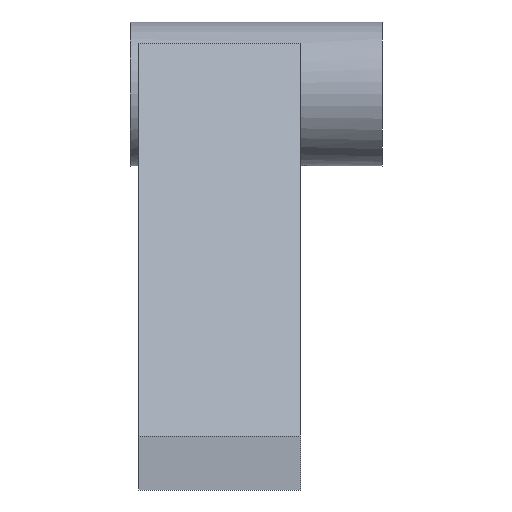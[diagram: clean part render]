
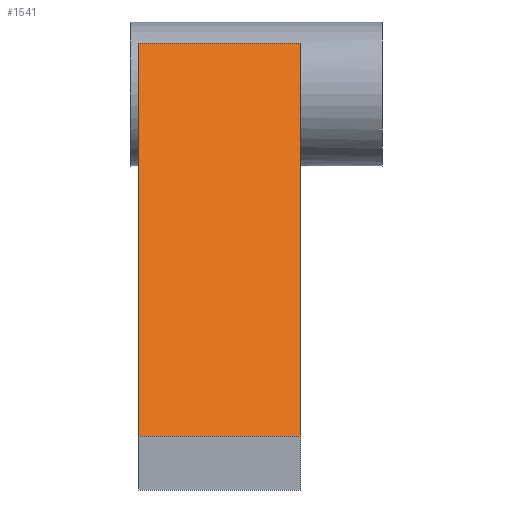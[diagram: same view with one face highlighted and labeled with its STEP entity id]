
A CAD part, front view. The second image highlights one B-rep face of the part: STEP entity #1541.
In plain terms, the highlighted planar face has unit normal (0, -0.67, 0.742).
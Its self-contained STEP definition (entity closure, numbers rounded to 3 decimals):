
#31 = CYLINDRICAL_SURFACE('',#32,8.);
#32 = AXIS2_PLACEMENT_3D('',#33,#34,#35);
#33 = CARTESIAN_POINT('',(-10.,0.,0.));
#34 = DIRECTION('',(-1.,-0.,-0.));
#35 = DIRECTION('',(0.,-1.,0.));
#95 = PLANE('',#96);
#96 = AXIS2_PLACEMENT_3D('',#97,#98,#99);
#97 = CARTESIAN_POINT('',(-9.,-22.394,-20.179));
#98 = DIRECTION('',(1.,0.,0.));
#99 = DIRECTION('',(-0.,0.,1.));
#154 = PLANE('',#155);
#155 = AXIS2_PLACEMENT_3D('',#156,#157,#158);
#156 = CARTESIAN_POINT('',(9.,-22.394,-20.179));
#157 = DIRECTION('',(1.,0.,0.));
#158 = DIRECTION('',(-0.,0.,1.));
#222 = VERTEX_POINT('',#223);
#223 = CARTESIAN_POINT('',(9.,-5.657,5.657));
#249 = EDGE_CURVE('',#250,#222,#252,.T.);
#250 = VERTEX_POINT('',#251);
#251 = CARTESIAN_POINT('',(-9.,-5.657,5.657));
#252 = SURFACE_CURVE('',#253,(#257,#264),.PCURVE_S1.);
#253 = LINE('',#254,#255);
#254 = CARTESIAN_POINT('',(-9.,-5.657,5.657));
#255 = VECTOR('',#256,1.);
#256 = DIRECTION('',(1.,0.,0.));
#257 = PCURVE('',#31,#258);
#258 = DEFINITIONAL_REPRESENTATION('',(#259),#263);
#259 = LINE('',#260,#261);
#260 = CARTESIAN_POINT('',(-5.498,-1.));
#261 = VECTOR('',#262,1.);
#262 = DIRECTION('',(-0.,-1.));
#263 = ( GEOMETRIC_REPRESENTATION_CONTEXT(2) 
PARAMETRIC_REPRESENTATION_CONTEXT() REPRESENTATION_CONTEXT('2D SPACE',''
  ) );
#264 = PCURVE('',#265,#270);
#265 = PLANE('',#266);
#266 = AXIS2_PLACEMENT_3D('',#267,#268,#269);
#267 = CARTESIAN_POINT('',(-9.,-5.657,5.657));
#268 = DIRECTION('',(0.,0.67,-0.742));
#269 = DIRECTION('',(0.,-0.742,-0.67));
#270 = DEFINITIONAL_REPRESENTATION('',(#271),#275);
#271 = LINE('',#272,#273);
#272 = CARTESIAN_POINT('',(0.,0.));
#273 = VECTOR('',#274,1.);
#274 = DIRECTION('',(0.,-1.));
#275 = ( GEOMETRIC_REPRESENTATION_CONTEXT(2) 
PARAMETRIC_REPRESENTATION_CONTEXT() REPRESENTATION_CONTEXT('2D SPACE',''
  ) );
#347 = VERTEX_POINT('',#348);
#348 = CARTESIAN_POINT('',(-9.,-54.,-38.));
#364 = PLANE('',#365);
#365 = AXIS2_PLACEMENT_3D('',#366,#367,#368);
#366 = CARTESIAN_POINT('',(-9.,-54.,-38.));
#367 = DIRECTION('',(-0.,1.,0.));
#368 = DIRECTION('',(0.,0.,-1.));
#427 = EDGE_CURVE('',#250,#347,#428,.T.);
#428 = SURFACE_CURVE('',#429,(#433,#440),.PCURVE_S1.);
#429 = LINE('',#430,#431);
#430 = CARTESIAN_POINT('',(-9.,-5.657,5.657));
#431 = VECTOR('',#432,1.);
#432 = DIRECTION('',(0.,-0.742,-0.67));
#433 = PCURVE('',#95,#434);
#434 = DEFINITIONAL_REPRESENTATION('',(#435),#439);
#435 = LINE('',#436,#437);
#436 = CARTESIAN_POINT('',(25.835,-16.737));
#437 = VECTOR('',#438,1.);
#438 = DIRECTION('',(-0.67,0.742));
#439 = ( GEOMETRIC_REPRESENTATION_CONTEXT(2) 
PARAMETRIC_REPRESENTATION_CONTEXT() REPRESENTATION_CONTEXT('2D SPACE',''
  ) );
#440 = PCURVE('',#265,#441);
#441 = DEFINITIONAL_REPRESENTATION('',(#442),#446);
#442 = LINE('',#443,#444);
#443 = CARTESIAN_POINT('',(0.,0.));
#444 = VECTOR('',#445,1.);
#445 = DIRECTION('',(1.,0.));
#446 = ( GEOMETRIC_REPRESENTATION_CONTEXT(2) 
PARAMETRIC_REPRESENTATION_CONTEXT() REPRESENTATION_CONTEXT('2D SPACE',''
  ) );
#1541 = ADVANCED_FACE('',(#1542),#265,.F.);
#1542 = FACE_BOUND('',#1543,.F.);
#1543 = EDGE_LOOP('',(#1544,#1545,#1568,#1589));
#1544 = ORIENTED_EDGE('',*,*,#249,.T.);
#1545 = ORIENTED_EDGE('',*,*,#1546,.T.);
#1546 = EDGE_CURVE('',#222,#1547,#1549,.T.);
#1547 = VERTEX_POINT('',#1548);
#1548 = CARTESIAN_POINT('',(9.,-54.,-38.));
#1549 = SURFACE_CURVE('',#1550,(#1554,#1561),.PCURVE_S1.);
#1550 = LINE('',#1551,#1552);
#1551 = CARTESIAN_POINT('',(9.,-5.657,5.657));
#1552 = VECTOR('',#1553,1.);
#1553 = DIRECTION('',(0.,-0.742,-0.67));
#1554 = PCURVE('',#265,#1555);
#1555 = DEFINITIONAL_REPRESENTATION('',(#1556),#1560);
#1556 = LINE('',#1557,#1558);
#1557 = CARTESIAN_POINT('',(0.,-18.));
#1558 = VECTOR('',#1559,1.);
#1559 = DIRECTION('',(1.,0.));
#1560 = ( GEOMETRIC_REPRESENTATION_CONTEXT(2) 
PARAMETRIC_REPRESENTATION_CONTEXT() REPRESENTATION_CONTEXT('2D SPACE',''
  ) );
#1561 = PCURVE('',#154,#1562);
#1562 = DEFINITIONAL_REPRESENTATION('',(#1563),#1567);
#1563 = LINE('',#1564,#1565);
#1564 = CARTESIAN_POINT('',(25.835,-16.737));
#1565 = VECTOR('',#1566,1.);
#1566 = DIRECTION('',(-0.67,0.742));
#1567 = ( GEOMETRIC_REPRESENTATION_CONTEXT(2) 
PARAMETRIC_REPRESENTATION_CONTEXT() REPRESENTATION_CONTEXT('2D SPACE',''
  ) );
#1568 = ORIENTED_EDGE('',*,*,#1569,.F.);
#1569 = EDGE_CURVE('',#347,#1547,#1570,.T.);
#1570 = SURFACE_CURVE('',#1571,(#1575,#1582),.PCURVE_S1.);
#1571 = LINE('',#1572,#1573);
#1572 = CARTESIAN_POINT('',(-9.,-54.,-38.));
#1573 = VECTOR('',#1574,1.);
#1574 = DIRECTION('',(1.,0.,0.));
#1575 = PCURVE('',#265,#1576);
#1576 = DEFINITIONAL_REPRESENTATION('',(#1577),#1581);
#1577 = LINE('',#1578,#1579);
#1578 = CARTESIAN_POINT('',(65.138,0.));
#1579 = VECTOR('',#1580,1.);
#1580 = DIRECTION('',(0.,-1.));
#1581 = ( GEOMETRIC_REPRESENTATION_CONTEXT(2) 
PARAMETRIC_REPRESENTATION_CONTEXT() REPRESENTATION_CONTEXT('2D SPACE',''
  ) );
#1582 = PCURVE('',#364,#1583);
#1583 = DEFINITIONAL_REPRESENTATION('',(#1584),#1588);
#1584 = LINE('',#1585,#1586);
#1585 = CARTESIAN_POINT('',(0.,0.));
#1586 = VECTOR('',#1587,1.);
#1587 = DIRECTION('',(0.,-1.));
#1588 = ( GEOMETRIC_REPRESENTATION_CONTEXT(2) 
PARAMETRIC_REPRESENTATION_CONTEXT() REPRESENTATION_CONTEXT('2D SPACE',''
  ) );
#1589 = ORIENTED_EDGE('',*,*,#427,.F.);
